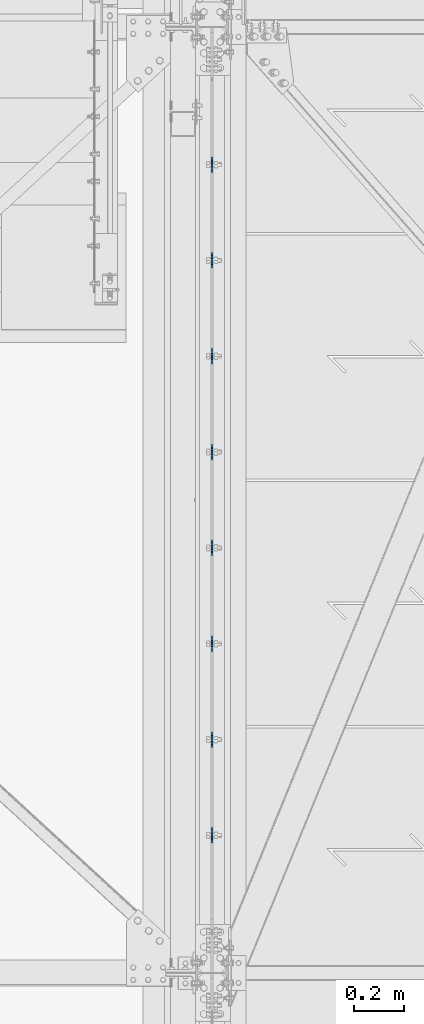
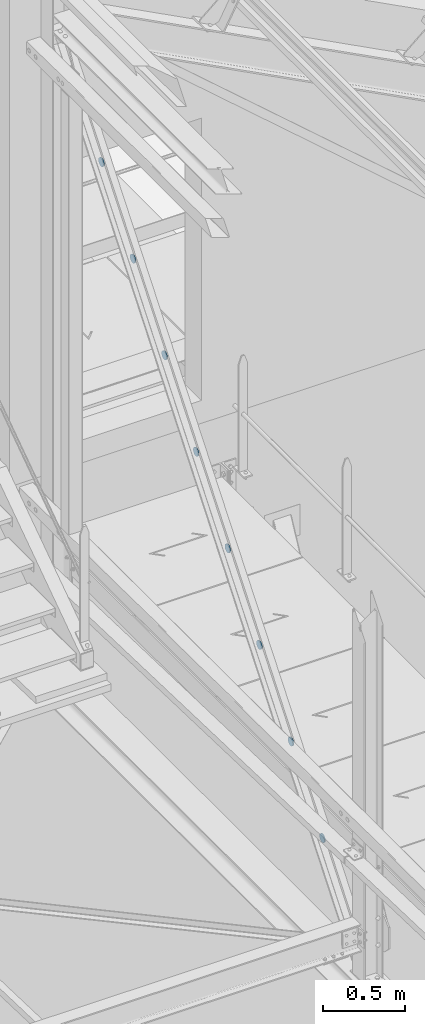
# One storey, part 119 of 362: 8 beams, 8 elements without a shape of their own.
"""IFC2X3 building model written with IfcOpenShell, lengths in millimetres."""

from ifc_helpers import new_model, si_unit, frame, frame_2d, origin_with_axes, place, context, subcontext, project, spatial, circle_curve, parameter, trimmed, segment, composite_curve, outline, extrude, material, type_object, element, aggregate, save


model = new_model("IFC2X3")

# Units and contexts
model_context = context("Model", 3, precision=1e-05, world=origin_with_axes())
body_context = subcontext(model_context, "Body", "Model", "MODEL_VIEW")
ifc_project = project(units=[si_unit("LENGTHUNIT", "METRE", prefix="MILLI"), si_unit("AREAUNIT", "SQUARE_METRE"), si_unit("VOLUMEUNIT", "CUBIC_METRE"), si_unit("MASSUNIT", "GRAM", prefix="KILO"), si_unit("TIMEUNIT", "SECOND"), si_unit("PLANEANGLEUNIT", "RADIAN"), si_unit("SOLIDANGLEUNIT", "STERADIAN"), si_unit("THERMODYNAMICTEMPERATUREUNIT", "DEGREE_CELSIUS"), si_unit("LUMINOUSINTENSITYUNIT", "LUMEN")], contexts=[model_context])

# Site, building, storey
site_placement = place(None, origin_with_axes())
site = spatial("IfcSite", under=ifc_project, at=site_placement, Name="Undefined", CompositionType="ELEMENT")
building_placement = place(site_placement, origin_with_axes())
building = spatial("IfcBuilding", under=site, at=building_placement, Name="Undefined", CompositionType="ELEMENT")
storey_placement = place(building_placement, origin_with_axes())
storey = spatial("IfcBuildingStorey", under=building, at=storey_placement, Name="Undefined", CompositionType="ELEMENT", Elevation=0.0)

# Assembly, beam
assembly_1_placement = place(storey_placement, origin_with_axes())
assembly_1 = element("IfcElementAssembly", 1, at=assembly_1_placement, inside=storey, AssemblyPlace="NOTDEFINED", PredefinedType="NOTDEFINED")
ifc_material = material(Name="Undefined/S235-E24")
beam_type = type_object("IfcBeamType", Name="TOLE8*60", PredefinedType="NOTDEFINED")
beam_1_placement = place(assembly_1_placement, frame((12680.0, 11982.7871042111, 7976.36627818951), z_axis=(-1.0, 0.0, 0.0), x_axis=(0.0, 0.0, -1.0)))
beam_1 = element("IfcBeam", 2, at=beam_1_placement, type_object=beam_type, material=ifc_material, Name="PLAQUETTE", ObjectType="TOLE8*60", context=body_context, shape_type="SweptSolid", body=[
    extrude(outline(composite_curve([segment(trimmed(circle_curve(frame_2d((30.0, 30.0), x_axis=(-1.0, 0.0)), 30.0), [parameter(0.0)], [parameter(1.5707963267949)], True, "PARAMETER"), True, "CONTINUOUS"), segment(trimmed(circle_curve(frame_2d((30.0, 30.0), x_axis=(0.0, -1.0)), 30.0), [parameter(0.0)], [parameter(1.5707963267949)], True, "PARAMETER"), True, "CONTINUOUS"), segment(trimmed(circle_curve(frame_2d((30.0, 30.0), x_axis=(1.0, 0.0)), 30.0), [parameter(0.0)], [parameter(1.5707963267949)], True, "PARAMETER"), True, "CONTINUOUS"), segment(trimmed(circle_curve(frame_2d((30.0, 30.0), x_axis=(0.0, 1.0)), 30.0), [parameter(0.0)], [parameter(1.5707963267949)], True, "PARAMETER"), True, "CONTINUOUS")], self_intersect=True)), frame((0.0, 0.0, -4.0), z_axis=(0.0, 0.0, 1.0), x_axis=(1.0, 0.0, 0.0)), (0.0, 0.0, 1.0), 8.0),
])
aggregate(assembly_1, [beam_1])

assembly_2_placement = place(storey_placement, origin_with_axes())
assembly_2 = element("IfcElementAssembly", 3, at=assembly_2_placement, inside=storey, AssemblyPlace="NOTDEFINED", PredefinedType="NOTDEFINED")
beam_2_placement = place(assembly_2_placement, frame((12680.0, 12367.7050746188, 8461.26162713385), z_axis=(-1.0, 0.0, 0.0), x_axis=(0.0, 0.0, -1.0)))
beam_2 = element("IfcBeam", 4, at=beam_2_placement, type_object=beam_type, material=ifc_material, Name="PLAQUETTE", ObjectType="TOLE8*60", context=body_context, shape_type="SweptSolid", body=[
    extrude(outline(composite_curve([segment(trimmed(circle_curve(frame_2d((30.0, 30.0), x_axis=(-1.0, 0.0)), 30.0), [parameter(0.0)], [parameter(1.5707963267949)], True, "PARAMETER"), True, "CONTINUOUS"), segment(trimmed(circle_curve(frame_2d((30.0, 30.0), x_axis=(0.0, -1.0)), 30.0), [parameter(0.0)], [parameter(1.5707963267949)], True, "PARAMETER"), True, "CONTINUOUS"), segment(trimmed(circle_curve(frame_2d((30.0, 30.0), x_axis=(1.0, 0.0)), 30.0), [parameter(0.0)], [parameter(1.5707963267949)], True, "PARAMETER"), True, "CONTINUOUS"), segment(trimmed(circle_curve(frame_2d((30.0, 30.0), x_axis=(0.0, 1.0)), 30.0), [parameter(0.0)], [parameter(1.5707963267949)], True, "PARAMETER"), True, "CONTINUOUS")], self_intersect=True)), frame((0.0, 0.0, -4.0), z_axis=(0.0, 0.0, 1.0), x_axis=(1.0, 0.0, 0.0)), (0.0, 0.0, 1.0), 8.0),
])
aggregate(assembly_2, [beam_2])

assembly_3_placement = place(storey_placement, origin_with_axes())
assembly_3 = element("IfcElementAssembly", 5, at=assembly_3_placement, inside=storey, AssemblyPlace="NOTDEFINED", PredefinedType="NOTDEFINED")
beam_3_placement = place(assembly_3_placement, frame((12680.0, 12752.6230450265, 8946.1569760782), z_axis=(-1.0, 0.0, 0.0), x_axis=(0.0, 0.0, -1.0)))
beam_3 = element("IfcBeam", 6, at=beam_3_placement, type_object=beam_type, material=ifc_material, Name="PLAQUETTE", ObjectType="TOLE8*60", context=body_context, shape_type="SweptSolid", body=[
    extrude(outline(composite_curve([segment(trimmed(circle_curve(frame_2d((30.0, 30.0), x_axis=(-1.0, 0.0)), 30.0), [parameter(0.0)], [parameter(1.5707963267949)], True, "PARAMETER"), True, "CONTINUOUS"), segment(trimmed(circle_curve(frame_2d((30.0, 30.0), x_axis=(0.0, -1.0)), 30.0), [parameter(0.0)], [parameter(1.5707963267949)], True, "PARAMETER"), True, "CONTINUOUS"), segment(trimmed(circle_curve(frame_2d((30.0, 30.0), x_axis=(1.0, 0.0)), 30.0), [parameter(0.0)], [parameter(1.5707963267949)], True, "PARAMETER"), True, "CONTINUOUS"), segment(trimmed(circle_curve(frame_2d((30.0, 30.0), x_axis=(0.0, 1.0)), 30.0), [parameter(0.0)], [parameter(1.5707963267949)], True, "PARAMETER"), True, "CONTINUOUS")], self_intersect=True)), frame((0.0, 0.0, -4.0), z_axis=(0.0, 0.0, 1.0), x_axis=(1.0, 0.0, 0.0)), (0.0, 0.0, 1.0), 8.0),
])
aggregate(assembly_3, [beam_3])

assembly_4_placement = place(storey_placement, origin_with_axes())
assembly_4 = element("IfcElementAssembly", 7, at=assembly_4_placement, inside=storey, AssemblyPlace="NOTDEFINED", PredefinedType="NOTDEFINED")
beam_4_placement = place(assembly_4_placement, frame((12680.0, 13137.5410154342, 9431.05232502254), z_axis=(-1.0, 0.0, 0.0), x_axis=(0.0, 0.0, -1.0)))
beam_4 = element("IfcBeam", 8, at=beam_4_placement, type_object=beam_type, material=ifc_material, Name="PLAQUETTE", ObjectType="TOLE8*60", context=body_context, shape_type="SweptSolid", body=[
    extrude(outline(composite_curve([segment(trimmed(circle_curve(frame_2d((30.0, 30.0), x_axis=(-1.0, 0.0)), 30.0), [parameter(0.0)], [parameter(1.5707963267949)], True, "PARAMETER"), True, "CONTINUOUS"), segment(trimmed(circle_curve(frame_2d((30.0, 30.0), x_axis=(0.0, -1.0)), 30.0), [parameter(0.0)], [parameter(1.5707963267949)], True, "PARAMETER"), True, "CONTINUOUS"), segment(trimmed(circle_curve(frame_2d((30.0, 30.0), x_axis=(1.0, 0.0)), 30.0), [parameter(0.0)], [parameter(1.5707963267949)], True, "PARAMETER"), True, "CONTINUOUS"), segment(trimmed(circle_curve(frame_2d((30.0, 30.0), x_axis=(0.0, 1.0)), 30.0), [parameter(0.0)], [parameter(1.5707963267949)], True, "PARAMETER"), True, "CONTINUOUS")], self_intersect=True)), frame((0.0, 0.0, -4.0), z_axis=(0.0, 0.0, 1.0), x_axis=(1.0, 0.0, 0.0)), (0.0, 0.0, 1.0), 8.0),
])
aggregate(assembly_4, [beam_4])

assembly_5_placement = place(storey_placement, origin_with_axes())
assembly_5 = element("IfcElementAssembly", 9, at=assembly_5_placement, inside=storey, AssemblyPlace="NOTDEFINED", PredefinedType="NOTDEFINED")
beam_5_placement = place(assembly_5_placement, frame((12680.0, 13522.4589858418, 9915.94767396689), z_axis=(-1.0, 0.0, 0.0), x_axis=(0.0, 0.0, -1.0)))
beam_5 = element("IfcBeam", 10, at=beam_5_placement, type_object=beam_type, material=ifc_material, Name="PLAQUETTE", ObjectType="TOLE8*60", context=body_context, shape_type="SweptSolid", body=[
    extrude(outline(composite_curve([segment(trimmed(circle_curve(frame_2d((30.0, 30.0), x_axis=(-1.0, 0.0)), 30.0), [parameter(0.0)], [parameter(1.5707963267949)], True, "PARAMETER"), True, "CONTINUOUS"), segment(trimmed(circle_curve(frame_2d((30.0, 30.0), x_axis=(0.0, -1.0)), 30.0), [parameter(0.0)], [parameter(1.5707963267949)], True, "PARAMETER"), True, "CONTINUOUS"), segment(trimmed(circle_curve(frame_2d((30.0, 30.0), x_axis=(1.0, 0.0)), 30.0), [parameter(0.0)], [parameter(1.5707963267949)], True, "PARAMETER"), True, "CONTINUOUS"), segment(trimmed(circle_curve(frame_2d((30.0, 30.0), x_axis=(0.0, 1.0)), 30.0), [parameter(0.0)], [parameter(1.5707963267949)], True, "PARAMETER"), True, "CONTINUOUS")], self_intersect=True)), frame((0.0, 0.0, -4.0), z_axis=(0.0, 0.0, 1.0), x_axis=(1.0, 0.0, 0.0)), (0.0, 0.0, 1.0), 8.0),
])
aggregate(assembly_5, [beam_5])

assembly_6_placement = place(storey_placement, origin_with_axes())
assembly_6 = element("IfcElementAssembly", 11, at=assembly_6_placement, inside=storey, AssemblyPlace="NOTDEFINED", PredefinedType="NOTDEFINED")
beam_6_placement = place(assembly_6_placement, frame((12680.0, 13907.3769562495, 10400.8430229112), z_axis=(-1.0, 0.0, 0.0), x_axis=(0.0, 0.0, -1.0)))
beam_6 = element("IfcBeam", 12, at=beam_6_placement, type_object=beam_type, material=ifc_material, Name="PLAQUETTE", ObjectType="TOLE8*60", context=body_context, shape_type="SweptSolid", body=[
    extrude(outline(composite_curve([segment(trimmed(circle_curve(frame_2d((30.0, 30.0), x_axis=(-1.0, 0.0)), 30.0), [parameter(0.0)], [parameter(1.5707963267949)], True, "PARAMETER"), True, "CONTINUOUS"), segment(trimmed(circle_curve(frame_2d((30.0, 30.0), x_axis=(0.0, -1.0)), 30.0), [parameter(0.0)], [parameter(1.5707963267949)], True, "PARAMETER"), True, "CONTINUOUS"), segment(trimmed(circle_curve(frame_2d((30.0, 30.0), x_axis=(1.0, 0.0)), 30.0), [parameter(0.0)], [parameter(1.5707963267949)], True, "PARAMETER"), True, "CONTINUOUS"), segment(trimmed(circle_curve(frame_2d((30.0, 30.0), x_axis=(0.0, 1.0)), 30.0), [parameter(0.0)], [parameter(1.5707963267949)], True, "PARAMETER"), True, "CONTINUOUS")], self_intersect=True)), frame((0.0, 0.0, -4.0), z_axis=(0.0, 0.0, 1.0), x_axis=(1.0, 0.0, 0.0)), (0.0, 0.0, 1.0), 8.0),
])
aggregate(assembly_6, [beam_6])

assembly_7_placement = place(storey_placement, origin_with_axes())
assembly_7 = element("IfcElementAssembly", 13, at=assembly_7_placement, inside=storey, AssemblyPlace="NOTDEFINED", PredefinedType="NOTDEFINED")
beam_7_placement = place(assembly_7_placement, frame((12680.0, 14292.2949266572, 10885.7383718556), z_axis=(-1.0, 0.0, 0.0), x_axis=(0.0, 0.0, -1.0)))
beam_7 = element("IfcBeam", 14, at=beam_7_placement, type_object=beam_type, material=ifc_material, Name="PLAQUETTE", ObjectType="TOLE8*60", context=body_context, shape_type="SweptSolid", body=[
    extrude(outline(composite_curve([segment(trimmed(circle_curve(frame_2d((30.0, 30.0), x_axis=(-1.0, 0.0)), 30.0), [parameter(0.0)], [parameter(1.5707963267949)], True, "PARAMETER"), True, "CONTINUOUS"), segment(trimmed(circle_curve(frame_2d((30.0, 30.0), x_axis=(0.0, -1.0)), 30.0), [parameter(0.0)], [parameter(1.5707963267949)], True, "PARAMETER"), True, "CONTINUOUS"), segment(trimmed(circle_curve(frame_2d((30.0, 30.0), x_axis=(1.0, 0.0)), 30.0), [parameter(0.0)], [parameter(1.5707963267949)], True, "PARAMETER"), True, "CONTINUOUS"), segment(trimmed(circle_curve(frame_2d((30.0, 30.0), x_axis=(0.0, 1.0)), 30.0), [parameter(0.0)], [parameter(1.5707963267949)], True, "PARAMETER"), True, "CONTINUOUS")], self_intersect=True)), frame((0.0, 0.0, -4.0), z_axis=(0.0, 0.0, 1.0), x_axis=(1.0, 0.0, 0.0)), (0.0, 0.0, 1.0), 8.0),
])
aggregate(assembly_7, [beam_7])

assembly_8_placement = place(storey_placement, origin_with_axes())
assembly_8 = element("IfcElementAssembly", 15, at=assembly_8_placement, inside=storey, AssemblyPlace="NOTDEFINED", PredefinedType="NOTDEFINED")
beam_8_placement = place(assembly_8_placement, frame((12680.0, 14677.2128970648, 11370.6337207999), z_axis=(-1.0, 0.0, 0.0), x_axis=(0.0, 0.0, -1.0)))
beam_8 = element("IfcBeam", 16, at=beam_8_placement, type_object=beam_type, material=ifc_material, Name="PLAQUETTE", ObjectType="TOLE8*60", context=body_context, shape_type="SweptSolid", body=[
    extrude(outline(composite_curve([segment(trimmed(circle_curve(frame_2d((30.0, 30.0), x_axis=(-1.0, 0.0)), 30.0), [parameter(0.0)], [parameter(1.5707963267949)], True, "PARAMETER"), True, "CONTINUOUS"), segment(trimmed(circle_curve(frame_2d((30.0, 30.0), x_axis=(0.0, -1.0)), 30.0), [parameter(0.0)], [parameter(1.5707963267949)], True, "PARAMETER"), True, "CONTINUOUS"), segment(trimmed(circle_curve(frame_2d((30.0, 30.0), x_axis=(1.0, 0.0)), 30.0), [parameter(0.0)], [parameter(1.5707963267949)], True, "PARAMETER"), True, "CONTINUOUS"), segment(trimmed(circle_curve(frame_2d((30.0, 30.0), x_axis=(0.0, 1.0)), 30.0), [parameter(0.0)], [parameter(1.5707963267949)], True, "PARAMETER"), True, "CONTINUOUS")], self_intersect=True)), frame((0.0, 0.0, -4.0), z_axis=(0.0, 0.0, 1.0), x_axis=(1.0, 0.0, 0.0)), (0.0, 0.0, 1.0), 8.0),
])
aggregate(assembly_8, [beam_8])

save(model, "model.ifc")
